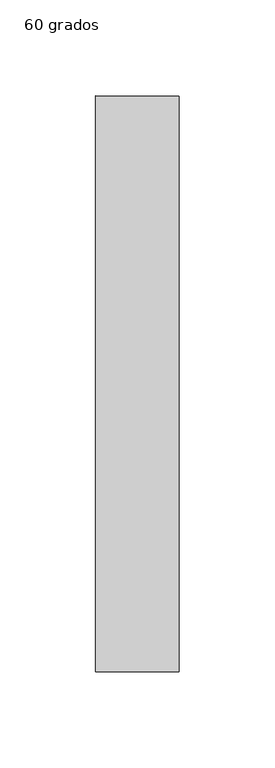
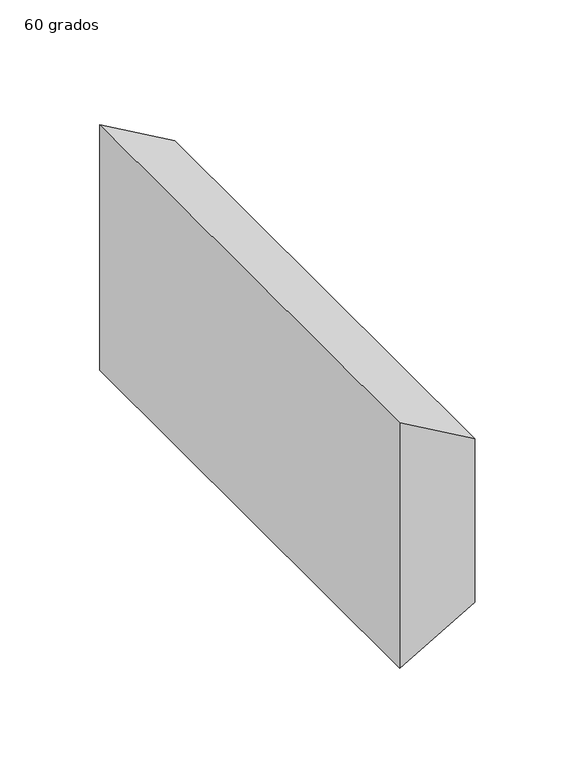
"""IFC4 building model written with IfcOpenShell, lengths in millimetres: duct fitting geometry, M_Transición rectangular - Ángulo : 60 grados."""

from ifc_helpers import new_model, si_unit, frame, origin, place, context, project, spatial, polyline, outline, extrude, source, transform, mapped, element, save


def duct_fitting_60_grados_d4a22871(model_context):
    return source(origin(), model_context, "Body", "SweptSolid", [
        extrude(outline(polyline([(75.0, 0.0), (-75.0, 0.0), (-50.0, 43.3012702), (50.0, 43.3012702), (75.0, 0.0)])), frame((0.0, -150.0, 0.0), z_axis=(0.0, 1.0, 0.0), x_axis=(0.0, 0.0, 1.0)), (0.0, 0.0, 1.0), 300.0),
    ])


if __name__ == "__main__":
    model = new_model("IFC4")
    model_context = context("Model", 3, world=origin())
    ifc_project = project(units=[si_unit("LENGTHUNIT", "METRE", prefix="MILLI")], contexts=[model_context])
    site = spatial("IfcSite", under=ifc_project)
    building = spatial("IfcBuilding", under=site)
    placement = place(None, origin())
    duct_fitting_60_grados_shape = duct_fitting_60_grados_d4a22871(model_context)
    element("IfcDuctFitting", 1, ObjectType="M_Transición rectangular - Ángulo : 60 grados", at=placement, inside=building, context=model_context, shape_type="MappedRepresentation", body=[
        mapped(duct_fitting_60_grados_shape, transform((0.0, 0.0, 0.0), x_axis=(1.0, 0.0, 0.0), y_axis=(0.0, 1.0, 0.0), z_axis=(0.0, 0.0, 1.0))),
    ])
    save(model, "model.ifc")
